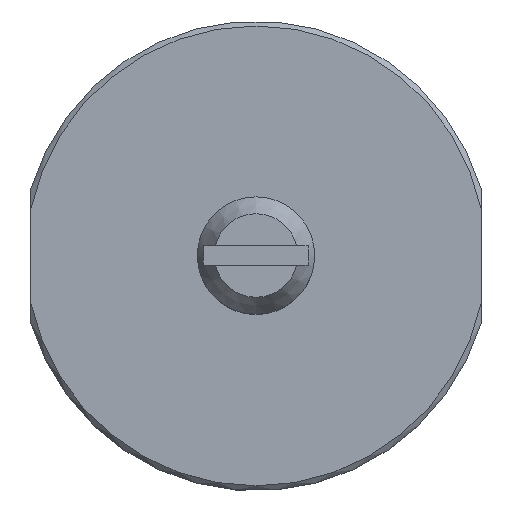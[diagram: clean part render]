
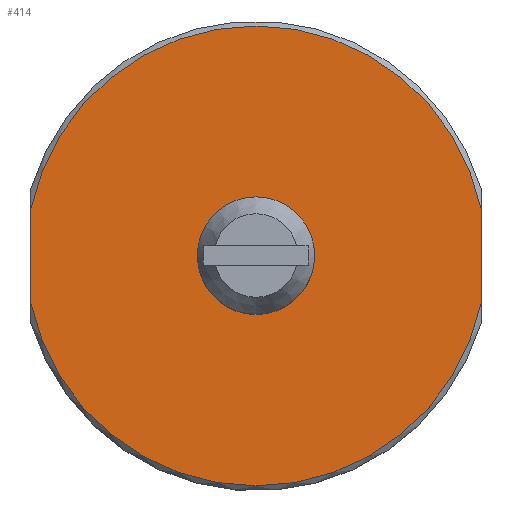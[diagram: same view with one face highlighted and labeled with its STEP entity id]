
A CAD part, top view. The second image highlights one B-rep face of the part: STEP entity #414.
In plain terms, the highlighted planar face has unit normal (0, 0, 1).
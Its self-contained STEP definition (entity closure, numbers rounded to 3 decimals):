
#35=FACE_BOUND('',#117,.T.);
#53=CIRCLE('',#449,23.5);
#54=CIRCLE('',#450,23.5);
#55=CIRCLE('',#451,5.15);
#84=FACE_OUTER_BOUND('',#116,.T.);
#116=EDGE_LOOP('',(#310,#311,#312,#313));
#117=EDGE_LOOP('',(#314));
#167=LINE('',#668,#179);
#171=LINE('',#693,#183);
#179=VECTOR('',#514,9.644);
#183=VECTOR('',#520,9.644);
#201=VERTEX_POINT('',#646);
#207=VERTEX_POINT('',#664);
#209=VERTEX_POINT('',#671);
#215=VERTEX_POINT('',#689);
#216=VERTEX_POINT('',#697);
#248=EDGE_CURVE('',#201,#207,#167,.T.);
#256=EDGE_CURVE('',#209,#215,#171,.T.);
#257=EDGE_CURVE('',#207,#209,#53,.T.);
#258=EDGE_CURVE('',#215,#201,#54,.T.);
#259=EDGE_CURVE('',#216,#216,#55,.T.);
#310=ORIENTED_EDGE('',*,*,#248,.T.);
#311=ORIENTED_EDGE('',*,*,#257,.T.);
#312=ORIENTED_EDGE('',*,*,#256,.T.);
#313=ORIENTED_EDGE('',*,*,#258,.T.);
#314=ORIENTED_EDGE('',*,*,#259,.F.);
#402=PLANE('',#448);
#414=ADVANCED_FACE('',(#84,#35),#402,.T.);
#448=AXIS2_PLACEMENT_3D('',#694,#521,#522);
#449=AXIS2_PLACEMENT_3D('',#695,#523,#524);
#450=AXIS2_PLACEMENT_3D('',#696,#525,#526);
#451=AXIS2_PLACEMENT_3D('',#698,#527,#528);
#514=DIRECTION('',(0.,1.,0.));
#520=DIRECTION('',(0.,-1.,0.));
#521=DIRECTION('center_axis',(0.,0.,1.));
#522=DIRECTION('ref_axis',(1.,0.,0.));
#523=DIRECTION('center_axis',(0.,0.,1.));
#524=DIRECTION('ref_axis',(0.,-1.,0.));
#525=DIRECTION('center_axis',(0.,0.,1.));
#526=DIRECTION('ref_axis',(0.,-1.,0.));
#527=DIRECTION('center_axis',(0.,0.,1.));
#528=DIRECTION('ref_axis',(0.,-1.,0.));
#646=CARTESIAN_POINT('',(23.,-4.822,0.));
#664=CARTESIAN_POINT('',(23.,4.822,0.));
#668=CARTESIAN_POINT('',(23.,-3.735,0.));
#671=CARTESIAN_POINT('',(-23.,4.822,0.));
#689=CARTESIAN_POINT('',(-23.,-4.822,0.));
#693=CARTESIAN_POINT('',(-23.,-10.59,0.));
#694=CARTESIAN_POINT('Origin',(0.,-14.325,0.));
#695=CARTESIAN_POINT('Origin',(0.,0.,0.));
#696=CARTESIAN_POINT('Origin',(0.,0.,0.));
#697=CARTESIAN_POINT('',(0.,-5.15,0.));
#698=CARTESIAN_POINT('Origin',(0.,0.,0.));
